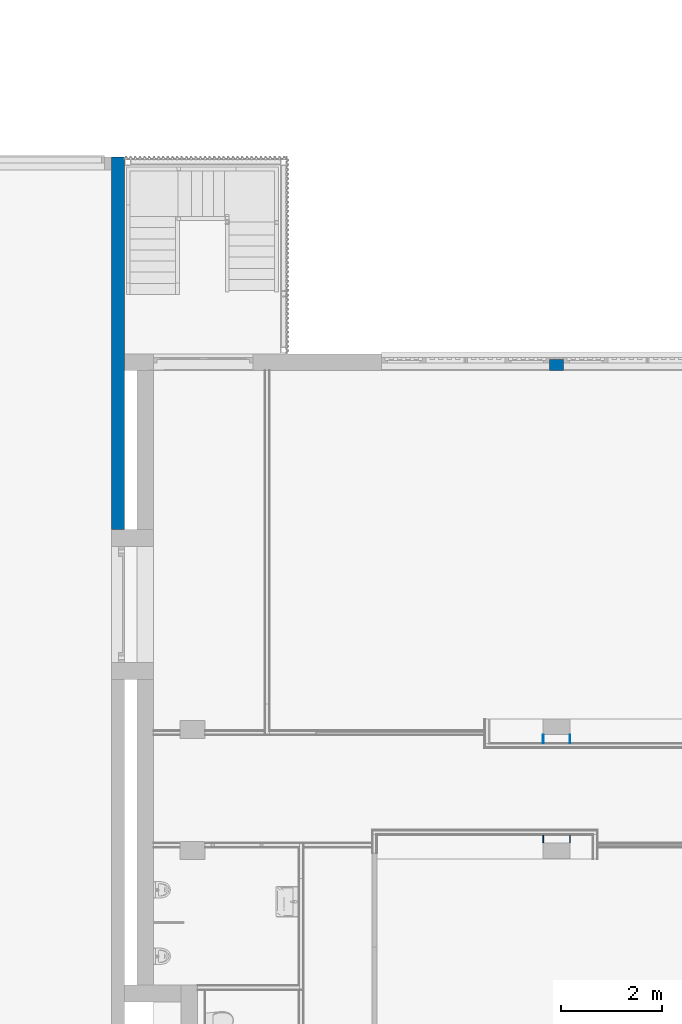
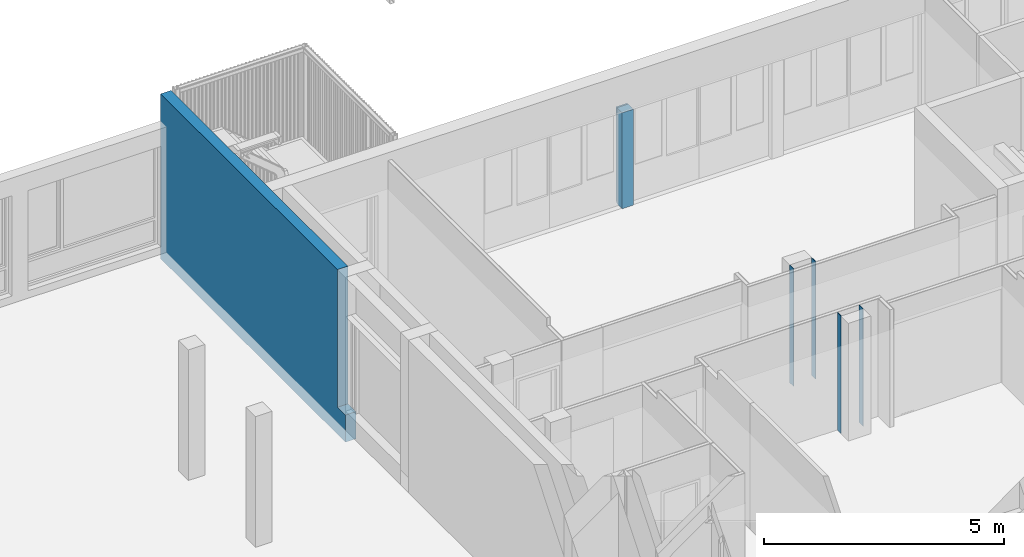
# One storey, part 51 of 117: 6 walls.
"""IFC2X3 building model written with IfcOpenShell, lengths in millimetres."""

from ifc_helpers import new_model, entity, si_unit, converted_unit, derived_unit, money_unit, direction, frame, origin_with_axes, place, context, subcontext, project, spatial, faceted_brep, material, type_object, element, save


model = new_model("IFC2X3")

# Units and contexts
model_context = context("Model", 3, precision=0.01, world=origin_with_axes(), true_north=direction((0.0, 1.0)))
body_context = subcontext(model_context, "Body", "Model", "MODEL_VIEW")
ifc_project = project(units=[si_unit("LENGTHUNIT", "METRE", prefix="MILLI"), si_unit("AREAUNIT", "SQUARE_METRE"), si_unit("VOLUMEUNIT", "CUBIC_METRE"), converted_unit("PLANEANGLEUNIT", "DEGREE", entity("IfcPlaneAngleMeasure", 0.0174532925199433), si_unit("PLANEANGLEUNIT", "RADIAN"), dimensions=[0, 0, 0, 0, 0, 0, 0]), money_unit("EUR"), converted_unit("TIMEUNIT", "Year", entity("IfcTimeMeasure", 31557600.0), si_unit("TIMEUNIT", "SECOND"), dimensions=[0, 0, 1, 0, 0, 0, 0]), si_unit("MASSUNIT", "GRAM", prefix="KILO"), si_unit("THERMODYNAMICTEMPERATUREUNIT", "DEGREE_CELSIUS"), si_unit("LUMINOUSINTENSITYUNIT", "LUMEN"), si_unit("ENERGYUNIT", "JOULE", prefix="MEGA"), derived_unit("THERMALCONDUCTANCEUNIT", [(si_unit("POWERUNIT", "WATT"), 1), (si_unit("LENGTHUNIT", "METRE"), -1), (si_unit("THERMODYNAMICTEMPERATUREUNIT", "KELVIN"), -1)]), derived_unit("SPECIFICHEATCAPACITYUNIT", [(si_unit("ENERGYUNIT", "JOULE"), 1), (si_unit("MASSUNIT", "GRAM", prefix="KILO"), -1), (si_unit("THERMODYNAMICTEMPERATUREUNIT", "KELVIN"), -1)]), derived_unit("MASSDENSITYUNIT", [(si_unit("MASSUNIT", "GRAM", prefix="KILO"), 1), (si_unit("VOLUMEUNIT", "CUBIC_METRE"), -1)])], contexts=[model_context])

# Site, building, storey
site_placement = place(None, origin_with_axes())
site = spatial("IfcSite", under=ifc_project, at=site_placement, Name="Site", CompositionType="ELEMENT")
building_placement = place(site_placement, origin_with_axes())
building = spatial("IfcBuilding", under=site, at=building_placement, Name="Naam gebouw", CompositionType="ELEMENT")
storey_placement = place(building_placement, frame((0.0, 0.0, 4150.0), z_axis=(0.0, 0.0, 1.0), x_axis=(1.0, 0.0, 0.0)))
storey = spatial("IfcBuildingStorey", under=building, at=storey_placement, Name="1e verdieping N", CompositionType="ELEMENT", Elevation=4150.0)

# Walls
ifc_material_1 = material(Name="ALG - CONSTRUCTIEF")
wall_type_1 = type_object("IfcWallType", Name="ALG - CONSTRUCTIEF 250", PredefinedType="NOTDEFINED")
wall_1_placement = place(storey_placement, frame((-1599.999999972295, 23965.57502437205, -790.0), z_axis=(0.0, 0.0, 1.0), x_axis=(0.0, -1.0, 0.0)))
element("IfcWall", 1, at=wall_1_placement, inside=storey, type_object=wall_type_1, material=ifc_material_1, Name="_Wand-x", context=body_context, shape_type="Brep", body=[
    faceted_brep([(-250.0, 0.0, 4190.0), (7119.983293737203, 0.0, 4190.0), (7119.983293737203, 250.0000000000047, 4190.0), (-250.0, 250.0000000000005, 4190.0), (7449.983293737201, 0.0, 690.0000000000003), (7119.983293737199, 0.0, 690.0000000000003), (-250.0, 0.0, 0.0), (7449.983293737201, 0.0, 0.0), (7119.983293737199, 250.0000000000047, 690.0000000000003), (7449.983293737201, 250.0000000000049, 690.0000000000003), (7449.983293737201, 250.0000000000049, 0.0), (-250.0, 250.0000000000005, 0.0)], [[[0, 1, 2, 3]], [[4, 5, 1, 0, 6, 7]], [[5, 8, 2, 1]], [[2, 8, 9, 10, 11, 3]], [[11, 6, 0, 3]], [[4, 9, 8, 5]], [[6, 11, 10, 7]], [[10, 9, 4, 7]]]),
])
ifc_material_2 = material(Name="Gipsplaat")
wall_type_2 = type_object("IfcWallType", Name="Metalstud 100 enkel 100", PredefinedType="NOTDEFINED")
wall_2_placement = place(storey_placement, frame((7469.999999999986, 12625.85635739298, 0.0), z_axis=(0.0, 0.0, 1.0), x_axis=(0.0, 1.0, 0.0)))
element("IfcWall", 2, at=wall_2_placement, inside=storey, type_object=wall_type_2, material=ifc_material_2, Name="_Wand-x", context=body_context, shape_type="Brep", body=[
    faceted_brep([(164.9999999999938, 0.0, 0.0), (164.9999999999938, 12.50000000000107, 0.0), (164.9999999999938, 12.50000000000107, 2990.000000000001), (164.9999999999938, 0.0, 2990.000000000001), (0.0, 0.0, 0.0), (0.0, 12.50000000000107, 0.0), (0.0, 12.50000000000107, 2990.000000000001), (0.0, 0.0, 2990.000000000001)], [[[0, 1, 2, 3]], [[0, 4, 5, 1]], [[1, 5, 6, 2]], [[2, 6, 7, 3]], [[4, 0, 3, 7]], [[5, 4, 7, 6]]]),
])
wall_3_placement = place(storey_placement, frame((6930.000000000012, 12625.85635739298, 0.0), z_axis=(0.0, 0.0, 1.0), x_axis=(0.0, 1.0, 0.0)))
element("IfcWall", 3, at=wall_3_placement, inside=storey, type_object=wall_type_2, material=ifc_material_2, Name="_Wand-x", context=body_context, shape_type="Brep", body=[
    faceted_brep([(164.9999999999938, -12.50000000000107, 0.0), (164.9999999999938, 0.0, 0.0), (164.9999999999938, 0.0, 2990.000000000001), (164.9999999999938, -12.50000000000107, 2990.000000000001), (0.0, -12.50000000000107, 0.0), (0.0, 0.0, 0.0), (0.0, 0.0, 2990.000000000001), (0.0, -12.50000000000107, 2990.000000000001)], [[[0, 1, 2, 3]], [[0, 4, 5, 1]], [[1, 5, 6, 2]], [[2, 6, 7, 3]], [[4, 0, 3, 7]], [[5, 4, 7, 6]]]),
])
wall_4_placement = place(storey_placement, frame((6930.0, 10650.91242510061, 0.0), z_axis=(0.0, 0.0, 1.0), x_axis=(0.0, 1.0, 0.0)))
element("IfcWall", 4, at=wall_4_placement, inside=storey, type_object=wall_type_2, material=ifc_material_2, Name="_Wand-x", context=body_context, shape_type="Brep", body=[
    faceted_brep([(155.0000000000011, -12.49999999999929, 0.0), (155.0000000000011, 0.0, 0.0), (155.0000000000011, 0.0, 2990.000000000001), (155.0000000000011, -12.49999999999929, 2990.000000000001), (0.0, -12.49999999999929, 0.0), (0.0, 0.0, 0.0), (0.0, 0.0, 2990.000000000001), (0.0, -12.49999999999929, 2990.000000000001)], [[[0, 1, 2, 3]], [[0, 4, 5, 1]], [[1, 5, 6, 2]], [[2, 6, 7, 3]], [[4, 0, 3, 7]], [[5, 4, 7, 6]]]),
])
wall_5_placement = place(storey_placement, frame((7470.000000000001, 10650.91242510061, 0.0), z_axis=(0.0, 0.0, 1.0), x_axis=(0.0, 1.0, 0.0)))
element("IfcWall", 5, at=wall_5_placement, inside=storey, type_object=wall_type_2, material=ifc_material_2, Name="_Wand-x", context=body_context, shape_type="Brep", body=[
    faceted_brep([(155.0000000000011, 0.0, 0.0), (155.0000000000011, 12.50000000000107, 0.0), (155.0000000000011, 12.50000000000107, 2990.000000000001), (155.0000000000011, 0.0, 2990.000000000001), (0.0, 0.0, 0.0), (0.0, 12.50000000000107, 0.0), (0.0, 12.50000000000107, 2990.000000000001), (0.0, 0.0, 2990.000000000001)], [[[0, 1, 2, 3]], [[0, 4, 5, 1]], [[1, 5, 6, 2]], [[2, 6, 7, 3]], [[4, 0, 3, 7]], [[5, 4, 7, 6]]]),
])
ifc_material_3 = material(Name="ALG - GEVEL")
wall_type_3 = type_object("IfcWallType", Name="ALG - GEVEL 260", PredefinedType="NOTDEFINED")
wall_6_placement = place(storey_placement, frame((7062.499999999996, 20255.89452790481, 0.0), z_axis=(0.0, 0.0, 1.0), x_axis=(1.0, 0.0, 0.0)))
element("IfcWall", 6, at=wall_6_placement, inside=storey, type_object=wall_type_3, material=ifc_material_3, Name="_Wand-x", context=body_context, shape_type="Brep", body=[
    faceted_brep([(274.9999999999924, -44.03721597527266, 2440.00000000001), (274.9999999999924, -44.03721597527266, 0.0), (0.0, -44.03721597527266, 0.0), (0.0, -44.03721597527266, 2440.00000000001), (275.0000000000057, -260.0000000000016, 0.0), (275.0000000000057, -260.0000000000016, 2440.0), (0.0, -260.0000000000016, 0.0), (0.0, -260.0000000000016, 2440.0)], [[[0, 1, 2, 3]], [[4, 1, 0, 5]], [[2, 1, 4, 6]], [[7, 3, 2, 6]], [[0, 3, 7, 5]], [[5, 7, 6, 4]]]),
    faceted_brep([(0.0, -0.0372159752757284, 15.61001410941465), (274.9999999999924, -0.0372159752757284, 15.61001924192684), (275.0000000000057, 0.0, 15.60345706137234), (0.0, 0.0, 15.60345192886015), (0.0, -0.0372159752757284, 0.0), (274.9999999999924, -0.0372159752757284, 0.0), (275.0000000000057, 0.0, 0.0), (0.0, 0.0, 0.0)], [[[0, 1, 2, 3]], [[0, 4, 5, 1]], [[2, 1, 5, 6]], [[6, 7, 3, 2]], [[7, 4, 0, 3]], [[5, 4, 7, 6]]]),
    faceted_brep([(0.0, -0.0372159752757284, 2440.00000000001), (274.9999999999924, -0.0372159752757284, 2440.00000000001), (275.0000000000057, 0.0, 2440.0), (0.0, 0.0, 2440.0), (0.0, -0.0372159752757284, 17.64086733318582), (274.9999999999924, -0.0372159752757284, 17.6408724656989), (275.0000000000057, 0.0, 17.63431028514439), (0.0, 0.0, 17.63430515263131)], [[[0, 1, 2, 3]], [[0, 4, 5, 1]], [[2, 1, 5, 6]], [[3, 2, 6, 7]], [[7, 4, 0, 3]], [[5, 4, 7, 6]]]),
])

save(model, "model.ifc")
